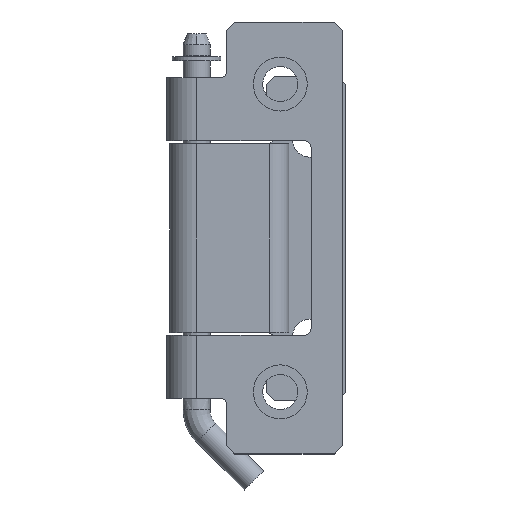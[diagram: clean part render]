
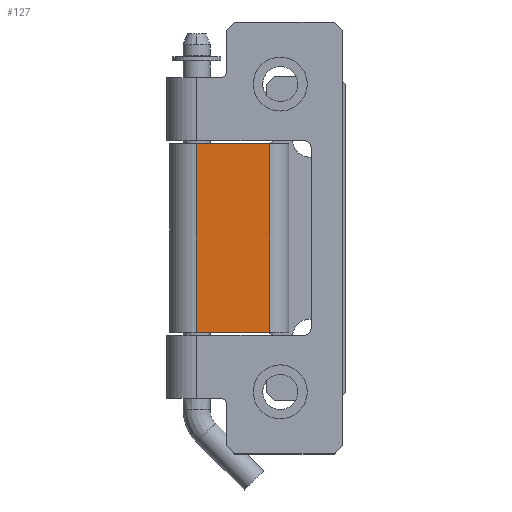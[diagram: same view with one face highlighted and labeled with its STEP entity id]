
A CAD part, top view. The second image highlights one B-rep face of the part: STEP entity #127.
In plain terms, the highlighted planar face has unit normal (0, 0, 1).
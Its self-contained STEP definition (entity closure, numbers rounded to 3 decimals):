
#127=ADVANCED_FACE('',(#250),#2019,.T.);
#250=FACE_OUTER_BOUND('',#387,.T.);
#387=EDGE_LOOP('',(#849,#850,#851,#852));
#849=ORIENTED_EDGE('',*,*,#1261,.T.);
#850=ORIENTED_EDGE('',*,*,#1262,.T.);
#851=ORIENTED_EDGE('',*,*,#1263,.T.);
#852=ORIENTED_EDGE('',*,*,#1257,.F.);
#1257=EDGE_CURVE('',#1933,#1934,#1392,.T.);
#1261=EDGE_CURVE('',#1933,#1935,#1748,.T.);
#1262=EDGE_CURVE('',#1935,#1936,#1749,.T.);
#1263=EDGE_CURVE('',#1936,#1934,#1750,.T.);
#1392=(
BOUNDED_CURVE()
B_SPLINE_CURVE(1,(#3753,#3754),.UNSPECIFIED.,.F.,.F.)
B_SPLINE_CURVE_WITH_KNOTS((2,2),(0.,35.),.UNSPECIFIED.)
CURVE()
GEOMETRIC_REPRESENTATION_ITEM()
RATIONAL_B_SPLINE_CURVE((1.,1.))
REPRESENTATION_ITEM('')
);
#1748=B_SPLINE_CURVE_WITH_KNOTS('',1,(#3761,#3762),.UNSPECIFIED.,.F.,.F.,
(2,2),(0.,12.383),.UNSPECIFIED.);
#1749=B_SPLINE_CURVE_WITH_KNOTS('',1,(#3763,#3764),.UNSPECIFIED.,.F.,.F.,
(2,2),(0.,35.),.UNSPECIFIED.);
#1750=B_SPLINE_CURVE_WITH_KNOTS('',1,(#3765,#3766),.UNSPECIFIED.,.F.,.F.,
(2,2),(0.,12.383),.UNSPECIFIED.);
#1933=VERTEX_POINT('',#3567);
#1934=VERTEX_POINT('',#3568);
#1935=VERTEX_POINT('',#3569);
#1936=VERTEX_POINT('',#3570);
#2019=PLANE('',#2321);
#2321=AXIS2_PLACEMENT_3D('',#3483,#2623,$);
#2623=DIRECTION('',(0.,0.,1.));
#3483=CARTESIAN_POINT('',(-6.013,-17.5,7.027));
#3567=CARTESIAN_POINT('',(-6.013,-17.5,7.027));
#3568=CARTESIAN_POINT('',(-6.013,17.5,7.027));
#3569=CARTESIAN_POINT('',(7.54,-17.5,7.027));
#3570=CARTESIAN_POINT('',(7.54,17.5,7.027));
#3753=CARTESIAN_POINT('',(-6.013,-17.5,7.027));
#3754=CARTESIAN_POINT('',(-6.013,17.5,7.027));
#3761=CARTESIAN_POINT('',(-6.013,-17.5,7.027));
#3762=CARTESIAN_POINT('',(7.54,-17.5,7.027));
#3763=CARTESIAN_POINT('',(7.54,-17.5,7.027));
#3764=CARTESIAN_POINT('',(7.54,17.5,7.027));
#3765=CARTESIAN_POINT('',(7.54,17.5,7.027));
#3766=CARTESIAN_POINT('',(-6.013,17.5,7.027));
